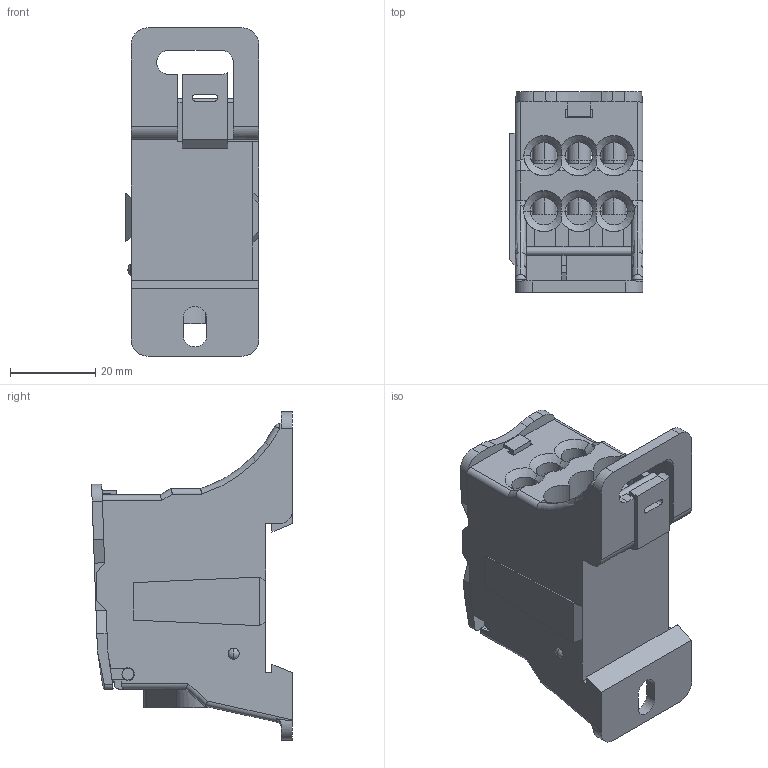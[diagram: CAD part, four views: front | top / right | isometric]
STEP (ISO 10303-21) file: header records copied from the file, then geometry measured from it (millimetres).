
FILE_DESCRIPTION (( 'STEP AP203' ), '1' );
FILE_NAME ('BDA160.STEP', '2018-08-10T19:59:51', ( '' ), ( '' ), 'SwSTEP 2.0', 'SolidWorks 2012', '' );
FILE_SCHEMA (( 'CONFIG_CONTROL_DESIGN' ));
Length unit declared in the file: millimetre
Products named in the file (1): BDA160
Bounding box: 31.4 x 47.09 x 77 mm (x, y, z)
Volume: 40445 mm3; surface area: 22763.8 mm2
Topology: 1 solids, 1 shells, 426 faces, 1183 edges, 766 vertices
Faces by surface type: plane 242, cylinder 150, cone 14, bspline 10, torus 6, sphere 4
Entity records: 14769 total; most frequent: CARTESIAN_POINT 3875, ORIENTED_EDGE 2366, DIRECTION 2139, EDGE_CURVE 1183, VERTEX_POINT 766, LINE 751, VECTOR 751, AXIS2_PLACEMENT_3D 694
